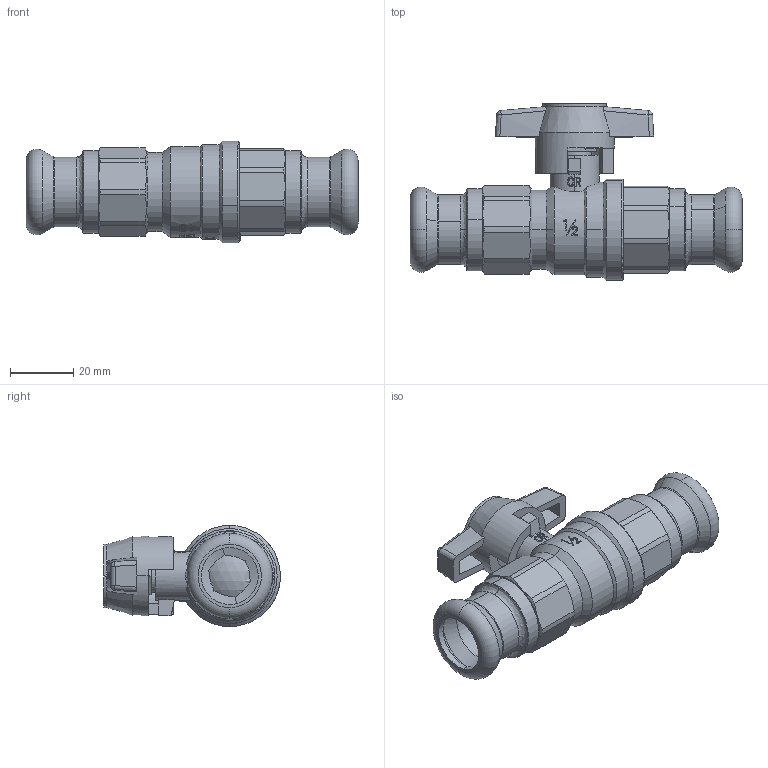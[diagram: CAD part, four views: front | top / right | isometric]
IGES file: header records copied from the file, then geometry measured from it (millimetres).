
Global section: file name: No Iges File Name specified; native system: AutoDesk Inventor R12.0; preprocessor: AutoDesk Inventor Iges Exporter R12.0; date: 20111207.085859; units: millimetre
Bounding box: 104.9 x 55.79 x 32 mm (x, y, z)
Volume: 33419.3 mm3; surface area: 29732.3 mm2
Topology: 1 solids, 12 shells, 857 faces, 2327 edges, 1548 vertices
Faces by surface type: plane 375, revolution 135, bspline 134, cylinder 89, cone 81, torus 34, sphere 9
